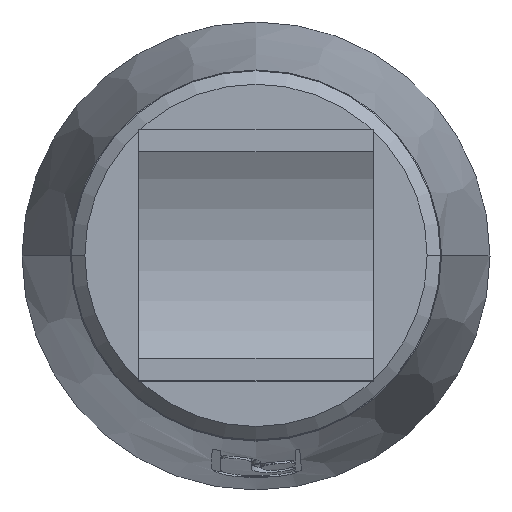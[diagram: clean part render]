
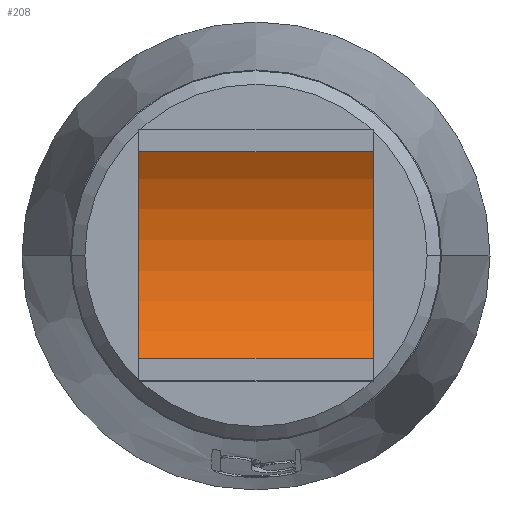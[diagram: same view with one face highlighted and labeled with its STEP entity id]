
A CAD part, top view. The second image highlights one B-rep face of the part: STEP entity #208.
In plain terms, the highlighted cylindrical face has radius 57.15 mm (diameter 114.3 mm), a partial arc.
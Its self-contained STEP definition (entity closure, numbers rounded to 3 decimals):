
#208=ADVANCED_FACE('',(#508),#509,.F.);
#508=FACE_OUTER_BOUND('',#938,.T.);
#509=CYLINDRICAL_SURFACE('',#939,57.15);
#938=EDGE_LOOP('',(#1347,#1348,#1349,#1350));
#939=AXIS2_PLACEMENT_3D('',#1351,#1352,#1353);
#1347=ORIENTED_EDGE('',*,*,#2474,.T.);
#1348=ORIENTED_EDGE('',*,*,#2475,.F.);
#1349=ORIENTED_EDGE('',*,*,#2476,.T.);
#1350=ORIENTED_EDGE('',*,*,#2471,.T.);
#1351=CARTESIAN_POINT('',(309.82,325.567,105.575));
#1352=DIRECTION('',(1.0,0.,0.));
#1353=DIRECTION('',(0.,1.0,0.));
#2471=EDGE_CURVE('',#2923,#2921,#2924,.T.);
#2474=EDGE_CURVE('',#2921,#2927,#2928,.T.);
#2475=EDGE_CURVE('',#2929,#2927,#2930,.T.);
#2476=EDGE_CURVE('',#2929,#2923,#2931,.T.);
#2921=VERTEX_POINT('',#3574);
#2923=VERTEX_POINT('',#3577);
#2924=LINE('',#3578,#3579);
#2927=VERTEX_POINT('',#3583);
#2928=CIRCLE('',#3584,57.15);
#2929=VERTEX_POINT('',#3585);
#2930=LINE('',#3586,#3587);
#2931=CIRCLE('',#3588,57.15);
#3574=CARTESIAN_POINT('',(379.82,294.783,57.425));
#3577=CARTESIAN_POINT('',(309.82,294.783,57.425));
#3578=CARTESIAN_POINT('',(309.82,294.783,57.425));
#3579=VECTOR('',#5123,1.);
#3583=CARTESIAN_POINT('',(379.82,356.352,57.425));
#3584=AXIS2_PLACEMENT_3D('',#5125,#5126,#5127);
#3585=CARTESIAN_POINT('',(309.82,356.352,57.425));
#3586=CARTESIAN_POINT('',(309.82,356.352,57.425));
#3587=VECTOR('',#5128,1.);
#3588=AXIS2_PLACEMENT_3D('',#5129,#5130,#5131);
#5123=DIRECTION('',(1.0,0.,0.));
#5125=CARTESIAN_POINT('',(379.82,325.567,105.575));
#5126=DIRECTION('',(1.0,0.,0.));
#5127=DIRECTION('',(0.,1.0,0.));
#5128=DIRECTION('',(1.0,0.,0.));
#5129=CARTESIAN_POINT('',(309.82,325.567,105.575));
#5130=DIRECTION('',(-1.0,0.,0.));
#5131=DIRECTION('',(0.,1.0,0.));
